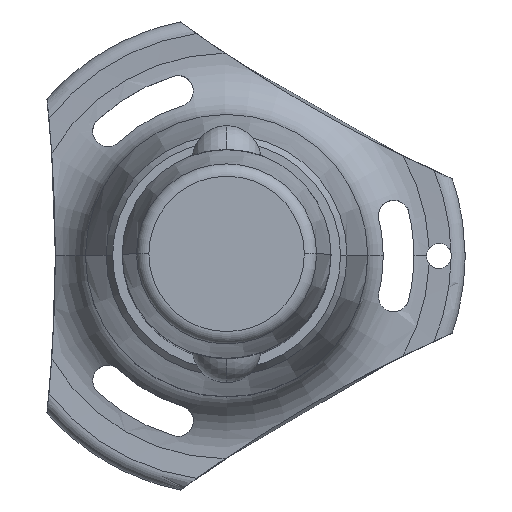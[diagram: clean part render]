
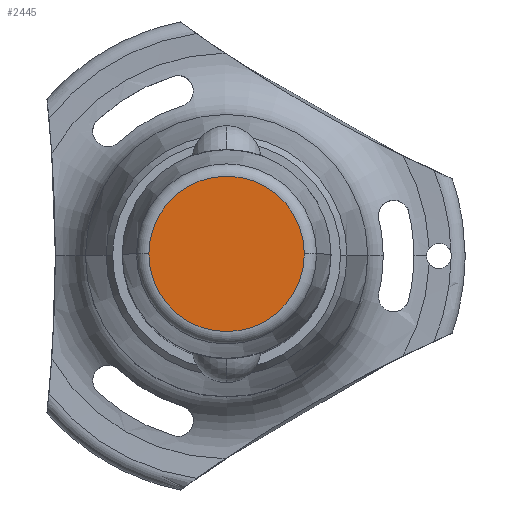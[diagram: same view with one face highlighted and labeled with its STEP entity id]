
A CAD part, top view. The second image highlights one B-rep face of the part: STEP entity #2445.
In plain terms, the highlighted planar face has unit normal (0, 0, 1).
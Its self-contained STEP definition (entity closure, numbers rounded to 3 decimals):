
#152 = CIRCLE ( 'NONE', #1113, 9.302 ) ;
#237 = CARTESIAN_POINT ( 'NONE',  ( 0., 0., 22. ) ) ;
#310 = DIRECTION ( 'NONE',  ( 0., 0., 1. ) ) ;
#567 = VERTEX_POINT ( 'NONE', #2623 ) ;
#683 = AXIS2_PLACEMENT_3D ( 'NONE', #237, #1997, #876 ) ;
#801 = DIRECTION ( 'NONE',  ( 1., 0., 0. ) ) ;
#876 = DIRECTION ( 'NONE',  ( 1., 0., 0. ) ) ;
#885 = ORIENTED_EDGE ( 'NONE', *, *, #920, .T. ) ;
#901 = PLANE ( 'NONE',  #683 ) ;
#920 = EDGE_CURVE ( 'NONE', #567, #1768, #152, .T. ) ;
#1013 = CIRCLE ( 'NONE', #1964, 9.302 ) ;
#1017 = CARTESIAN_POINT ( 'NONE',  ( 9.302, 0., 22. ) ) ;
#1026 = CARTESIAN_POINT ( 'NONE',  ( 0., 0., 22. ) ) ;
#1113 = AXIS2_PLACEMENT_3D ( 'NONE', #1026, #2137, #801 ) ;
#1206 = DIRECTION ( 'NONE',  ( 1., 0., 0. ) ) ;
#1593 = ORIENTED_EDGE ( 'NONE', *, *, #2799, .T. ) ;
#1604 = EDGE_LOOP ( 'NONE', ( #1593, #885 ) ) ;
#1632 = FACE_OUTER_BOUND ( 'NONE', #1604, .T. ) ;
#1768 = VERTEX_POINT ( 'NONE', #1017 ) ;
#1964 = AXIS2_PLACEMENT_3D ( 'NONE', #2551, #310, #1206 ) ;
#1997 = DIRECTION ( 'NONE',  ( 0., 0., 1. ) ) ;
#2137 = DIRECTION ( 'NONE',  ( 0., 0., 1. ) ) ;
#2445 = ADVANCED_FACE ( 'NONE', ( #1632 ), #901, .T. ) ;
#2551 = CARTESIAN_POINT ( 'NONE',  ( 0., 0., 22. ) ) ;
#2623 = CARTESIAN_POINT ( 'NONE',  ( -9.302, 0., 22. ) ) ;
#2799 = EDGE_CURVE ( 'NONE', #1768, #567, #1013, .T. ) ;
